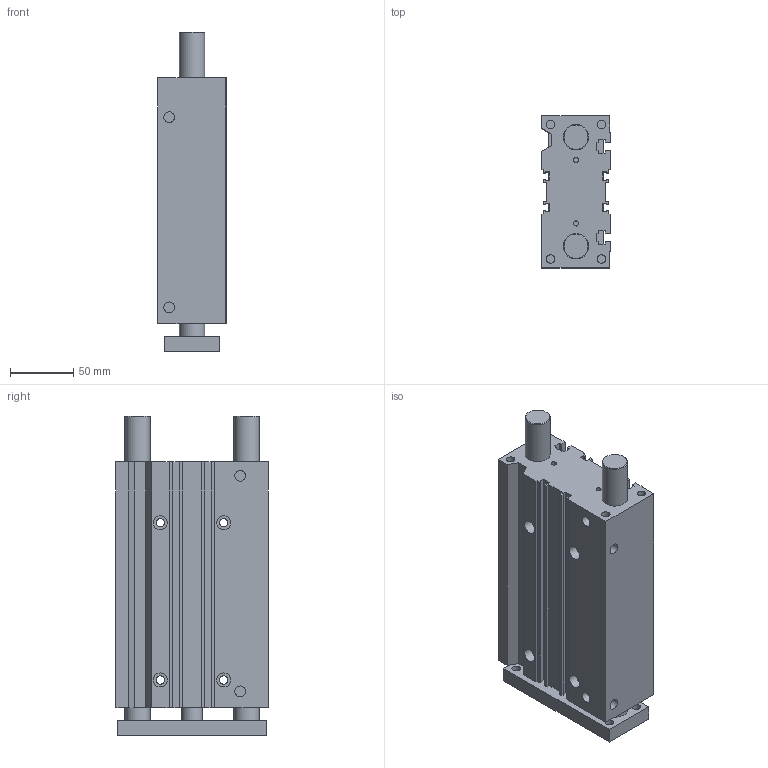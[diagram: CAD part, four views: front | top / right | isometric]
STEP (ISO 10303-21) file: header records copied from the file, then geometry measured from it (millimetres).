
FILE_DESCRIPTION((''),'2;1');
FILE_NAME('I:\Area Tecnica\Disegni\VARIE-3D\Componenti\6100\6100 Ø20-63\6100_##_###_#\6100400150B.stp','2012-01-11T09:06:04',('airolcr1'),(''),'Autodesk Inventor 2012','Autodesk Inventor 2012','');
FILE_SCHEMA(('AUTOMOTIVE_DESIGN { 1 0 10303 214 1 1 1 1 }'));
Length unit declared in the file: millimetre
Products named in the file (3): 6100400150B; CORPO Ø40 C150 B; PIASTRA Ø40 C150 B
Assembly tree (2 placements, depth 2):
  6100400150B
    CORPO Ø40 C150 B
    PIASTRA Ø40 C150 B
Bounding box: 54 x 120 x 252 mm (x, y, z)
Volume: 1243880.1 mm3; surface area: 190971 mm2
Topology: 2 solids, 2 shells, 166 faces, 417 edges, 277 vertices
Faces by surface type: plane 126, cylinder 38, cone 2
Full cylindrical faces by diameter (mm): 4 x6, 6.647 x8, 6.65 x4, 8.566 x4, 11 x4, 16 x2, 20 x4
Entity records: 5013 total; most frequent: CARTESIAN_POINT 815, DIRECTION 798, ORIENTED_EDGE 750, EDGE_CURVE 375, VECTOR 294, LINE 294, VERTEX_POINT 269, AXIS2_PLACEMENT_3D 252
